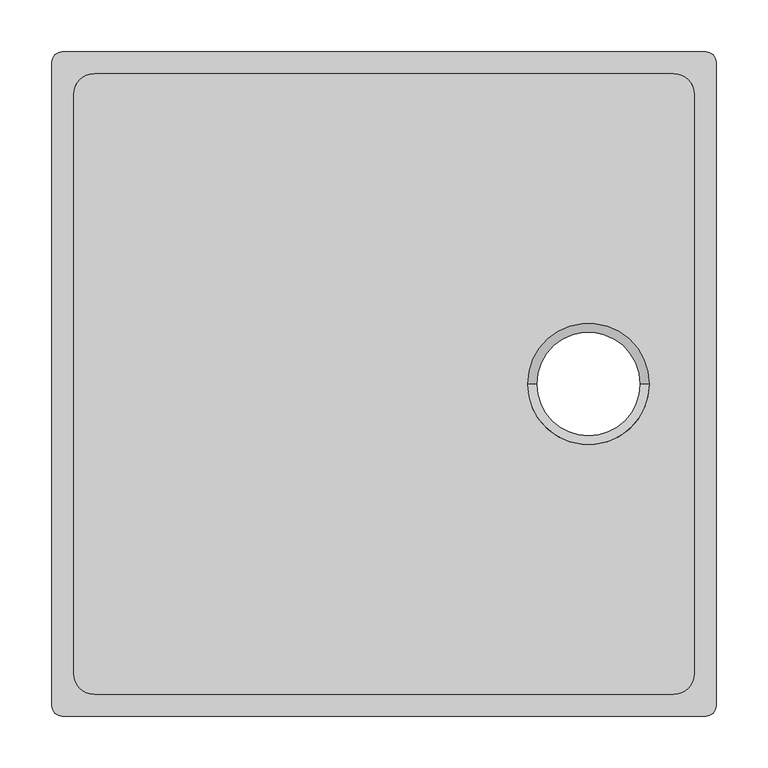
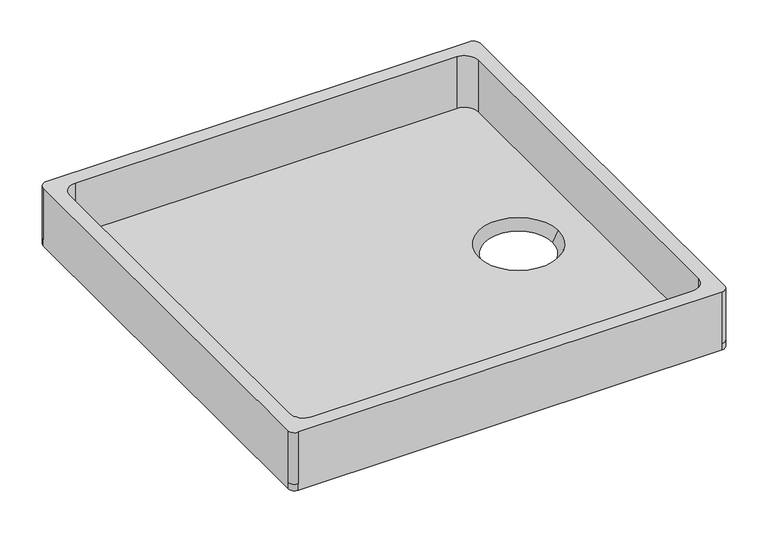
"""IFC4 building model written with IfcOpenShell, lengths in millimetres: flow terminal geometry, 洗濯機パン : 洗濯機パン."""

from ifc_helpers import new_model, si_unit, frame, origin, place, context, project, spatial, polyline, circle_curve, source, transform, mapped, element, save
from ifc_brep_helpers import plane_surface, cylinder_surface, revolved_surface, advanced_brep


def flow_terminal_9508bbe0(model_context):
    return source(origin(), model_context, "Body", "AdvancedBrep", [
        advanced_brep(
        [(-310.0, 320.0, 90.0), (-320.0, 310.0, 90.0), (-320.0, -310.0, 90.0), (-310.0, -320.0, 90.0), (310.0, -320.0, 90.0), (320.0, -310.0, 90.0), (320.0, 310.0, 90.0), (310.0, 320.0, 90.0), (-279.0, 299.0, 90.0), (279.0, 299.0, 90.0), (299.0, 279.0, 90.0), (299.0, -279.0, 90.0), (279.0, -299.0, 90.0), (-279.0, -299.0, 90.0), (-299.0, -279.0, 90.0), (-299.0, 279.0, 90.0), (-310.0, 320.0, 10.0), (-320.0, 310.0, 10.0), (-320.0, 310.0, 0.0), (-320.0, -310.0, 0.0), (-320.0, -310.0, 10.0), (-310.0, -320.0, 10.0), (-310.0, -320.0, 0.0), (310.0, -320.0, 0.0), (310.0, -320.0, 10.0), (320.0, -310.0, 10.0), (320.0, -310.0, 0.0), (320.0, 310.0, 0.0), (320.0, 310.0, 10.0), (310.0, 320.0, 10.0), (310.0, 320.0, 0.0), (-310.0, 320.0, 0.0), (-279.0, 299.0, 10.0), (279.0, 299.0, 10.0), (299.0, 279.0, 10.0), (299.0, -279.0, 10.0), (279.0, -299.0, 10.0), (-279.0, -299.0, 10.0), (-299.0, -279.0, 10.0), (-299.0, 279.0, 10.0), (255.5, 0.0, 10.0), (138.5, 0.0, 10.0), (138.5, 0.0, 0.0), (255.5, 0.0, 0.0), (138.5, 0.0, -5.0), (255.5, 0.0, -5.0), (147.0, 0.0, -5.0), (247.0, 0.0, -5.0)],
        [
            (0, 1, circle_curve(frame((-310.0, 310.0, 90.0), z_axis=(0.0, 0.0, 1.0), x_axis=(1.0, 0.0, 0.0)), 10.0)),
            (1, 2),
            (2, 3, circle_curve(frame((-310.0, -310.0, 90.0), z_axis=(0.0, 0.0, 1.0), x_axis=(1.0, 0.0, 0.0)), 10.0)),
            (3, 4),
            (4, 5, circle_curve(frame((310.0, -310.0, 90.0), z_axis=(0.0, 0.0, 1.0), x_axis=(1.0, 0.0, 0.0)), 10.0)),
            (5, 6),
            (6, 7, circle_curve(frame((310.0, 310.0, 90.0), z_axis=(0.0, 0.0, 1.0), x_axis=(1.0, 0.0, 0.0)), 10.0)),
            (7, 0),
            (8, 9),
            (9, 10, circle_curve(frame((279.0, 279.0, 90.0), z_axis=(0.0, 0.0, -1.0), x_axis=(1.0, 0.0, 0.0)), 20.0)),
            (10, 11),
            (11, 12, circle_curve(frame((279.0, -279.0, 90.0), z_axis=(0.0, 0.0, -1.0), x_axis=(1.0, 0.0, 0.0)), 20.0)),
            (12, 13),
            (13, 14, circle_curve(frame((-279.0, -279.0, 90.0), z_axis=(0.0, 0.0, -1.0), x_axis=(1.0, 0.0, 0.0)), 20.0)),
            (14, 15),
            (15, 8, circle_curve(frame((-279.0, 279.0, 90.0), z_axis=(0.0, 0.0, -1.0), x_axis=(1.0, 0.0, 0.0)), 20.0)),
            (0, 16),
            (16, 17, circle_curve(frame((-310.0, 310.0, 10.0), z_axis=(0.0, 0.0, 1.0), x_axis=(1.0, 0.0, 0.0)), 10.0)),
            (17, 1),
            (17, 18),
            (18, 19),
            (19, 20),
            (20, 2),
            (20, 21, circle_curve(frame((-310.0, -310.0, 10.0), z_axis=(0.0, 0.0, 1.0), x_axis=(1.0, 0.0, 0.0)), 10.0)),
            (21, 3),
            (21, 22),
            (22, 23),
            (23, 24),
            (24, 4),
            (24, 25, circle_curve(frame((310.0, -310.0, 10.0), z_axis=(0.0, 0.0, 1.0), x_axis=(1.0, 0.0, 0.0)), 10.0)),
            (25, 5),
            (25, 26),
            (26, 27),
            (27, 28),
            (28, 6),
            (28, 29, circle_curve(frame((310.0, 310.0, 10.0), z_axis=(0.0, 0.0, 1.0), x_axis=(1.0, 0.0, 0.0)), 10.0)),
            (29, 7),
            (29, 30),
            (30, 31),
            (31, 16),
            (8, 32),
            (32, 33),
            (33, 9),
            (33, 34, circle_curve(frame((279.0, 279.0, 10.0), z_axis=(0.0, 0.0, -1.0), x_axis=(1.0, 0.0, 0.0)), 20.0)),
            (34, 10),
            (34, 35),
            (35, 11),
            (35, 36, circle_curve(frame((279.0, -279.0, 10.0), z_axis=(0.0, 0.0, -1.0), x_axis=(1.0, 0.0, 0.0)), 20.0)),
            (36, 12),
            (36, 37),
            (37, 13),
            (37, 38, circle_curve(frame((-279.0, -279.0, 10.0), z_axis=(0.0, 0.0, -1.0), x_axis=(1.0, 0.0, 0.0)), 20.0)),
            (38, 14),
            (38, 39),
            (39, 15),
            (39, 32, circle_curve(frame((-279.0, 279.0, 10.0), z_axis=(0.0, 0.0, -1.0), x_axis=(1.0, 0.0, 0.0)), 20.0)),
            (40, 41, circle_curve(frame((197.0, 0.0, 10.0), z_axis=(0.0, 0.0, -1.0), x_axis=(-1.0, 0.0, 0.0)), 58.5)),
            (41, 40, circle_curve(frame((197.0, 0.0, 10.0), z_axis=(0.0, 0.0, -1.0), x_axis=(1.0, 0.0, 0.0)), 58.5)),
            (30, 27, circle_curve(frame((310.0, 310.0, 0.0), z_axis=(0.0, 0.0, -1.0), x_axis=(1.0, 0.0, 0.0)), 10.0)),
            (26, 23, circle_curve(frame((310.0, -310.0, 0.0), z_axis=(0.0, 0.0, -1.0), x_axis=(1.0, 0.0, 0.0)), 10.0)),
            (22, 19, circle_curve(frame((-310.0, -310.0, 0.0), z_axis=(0.0, 0.0, -1.0), x_axis=(1.0, 0.0, 0.0)), 10.0)),
            (18, 31, circle_curve(frame((-310.0, 310.0, 0.0), z_axis=(0.0, 0.0, -1.0), x_axis=(1.0, 0.0, 0.0)), 10.0)),
            (42, 43, circle_curve(frame((197.0, 0.0, 0.0), z_axis=(0.0, 0.0, 1.0), x_axis=(1.0, 0.0, 0.0)), 58.5)),
            (43, 42, circle_curve(frame((197.0, 0.0, 0.0), z_axis=(0.0, 0.0, 1.0), x_axis=(1.0, 0.0, 0.0)), 58.5)),
            (44, 45, circle_curve(frame((197.0, 0.0, -5.0), z_axis=(0.0, 0.0, -1.0), x_axis=(1.0, 0.0, 0.0)), 58.5)),
            (45, 44, circle_curve(frame((197.0, 0.0, -5.0), z_axis=(0.0, 0.0, -1.0), x_axis=(1.0, 0.0, 0.0)), 58.5)),
            (46, 47, circle_curve(frame((197.0, 0.0, -5.0), z_axis=(0.0, 0.0, 1.0), x_axis=(-1.0, 0.0, 0.0)), 50.0)),
            (47, 46, circle_curve(frame((197.0, 0.0, -5.0), z_axis=(0.0, 0.0, 1.0), x_axis=(1.0, 0.0, 0.0)), 50.0)),
            (45, 43),
            (42, 44),
            (46, 41),
            (40, 47),
        ],
        [
            plane_surface(frame((-300.0, 310.0, 90.0), z_axis=(0.0, 0.0, 1.0), x_axis=(0.0, 1.0, 0.0))),
            cylinder_surface(frame((-310.0, 310.0, 10.0), z_axis=(0.0, 0.0, 1.0), x_axis=(1.0, 0.0, 0.0)), 10.0),
            plane_surface(frame((-320.0, 310.0, 90.0), z_axis=(-1.0, 0.0, 0.0), x_axis=(0.0, 0.0, -1.0))),
            cylinder_surface(frame((-310.0, -310.0, 10.0), z_axis=(0.0, 0.0, 1.0), x_axis=(1.0, 0.0, 0.0)), 10.0),
            plane_surface(frame((-310.0, -320.0, 90.0), z_axis=(0.0, -1.0, 0.0), x_axis=(0.0, 0.0, -1.0))),
            cylinder_surface(frame((310.0, -310.0, 10.0), z_axis=(0.0, 0.0, 1.0), x_axis=(1.0, 0.0, 0.0)), 10.0),
            plane_surface(frame((320.0, -310.0, 90.0), z_axis=(1.0, 0.0, 0.0), x_axis=(0.0, 0.0, -1.0))),
            cylinder_surface(frame((310.0, 310.0, 10.0), z_axis=(0.0, 0.0, 1.0), x_axis=(1.0, 0.0, 0.0)), 10.0),
            plane_surface(frame((310.0, 320.0, 90.0), z_axis=(0.0, 1.0, 0.0), x_axis=(0.0, 0.0, -1.0))),
            plane_surface(frame((-279.0, 299.0, 90.0), z_axis=(0.0, -1.0, 0.0), x_axis=(0.0, 0.0, -1.0))),
            revolved_surface(polyline([(299.0, 279.0, 10.0), (299.0, 279.0, 90.0)]), (279.0, 279.0, 0.0), (0.0, 0.0, -1.0)),
            plane_surface(frame((299.0, 279.0, 90.0), z_axis=(-1.0, 0.0, 0.0), x_axis=(0.0, 0.0, -1.0))),
            revolved_surface(polyline([(299.0, -279.0, 10.0), (299.0, -279.0, 90.0)]), (279.0, -279.0, 0.0), (0.0, 0.0, -1.0)),
            plane_surface(frame((279.0, -299.0, 90.0), z_axis=(0.0, 1.0, 0.0), x_axis=(0.0, 0.0, -1.0))),
            revolved_surface(polyline([(-259.0, -279.0, 10.0), (-259.0, -279.0, 90.0)]), (-279.0, -279.0, 0.0), (0.0, 0.0, -1.0)),
            plane_surface(frame((-299.0, -279.0, 90.0), z_axis=(1.0, 0.0, 0.0), x_axis=(0.0, 0.0, -1.0))),
            revolved_surface(polyline([(-259.0, 279.0, 10.0), (-259.0, 279.0, 90.0)]), (-279.0, 279.0, 0.0), (0.0, 0.0, -1.0)),
            plane_surface(frame((-310.0, 320.0, 10.0), z_axis=(0.0, 0.0, 1.0), x_axis=(-1.0, 0.0, 0.0))),
            plane_surface(frame((-310.0, 320.0, 0.0), z_axis=(0.0, 0.0, -1.0), x_axis=(1.0, 0.0, 0.0))),
            cylinder_surface(frame((-310.0, 310.0, 0.0), z_axis=(0.0, 0.0, 1.0), x_axis=(1.0, 0.0, 0.0)), 10.0),
            cylinder_surface(frame((-310.0, -310.0, 0.0), z_axis=(0.0, 0.0, 1.0), x_axis=(1.0, 0.0, 0.0)), 10.0),
            cylinder_surface(frame((310.0, -310.0, 0.0), z_axis=(0.0, 0.0, 1.0), x_axis=(1.0, 0.0, 0.0)), 10.0),
            cylinder_surface(frame((310.0, 310.0, 0.0), z_axis=(0.0, 0.0, 1.0), x_axis=(1.0, 0.0, 0.0)), 10.0),
            plane_surface(frame((255.5, 0.0, -5.0), z_axis=(0.0, 0.0, -1.0), x_axis=(0.0, -1.0, 0.0))),
            cylinder_surface(frame((197.0, 0.0, -5.0), z_axis=(0.0, 0.0, 1.0), x_axis=(1.0, 0.0, 0.0)), 58.5),
            revolved_surface(polyline([(138.5, 0.0, 10.0), (147.000000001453, 0.0, -5.0)]), (197.0, 0.0, -93.2352941), (0.0, 0.0, 1.0)),
        ],
        [
            (0, [[1, 2, 3, 4, 5, 6, 7, 8], [9, 10, 11, 12, 13, 14, 15, 16]]),
            (1, [[-1, 17, 18, 19]]),
            (2, [[-2, -19, 20, 21, 22, 23]]),
            (3, [[-3, -23, 24, 25]]),
            (4, [[-4, -25, 26, 27, 28, 29]]),
            (5, [[-5, -29, 30, 31]]),
            (6, [[-6, -31, 32, 33, 34, 35]]),
            (7, [[-7, -35, 36, 37]]),
            (8, [[-8, -37, 38, 39, 40, -17]]),
            (9, [[-9, 41, 42, 43]]),
            (10, [[-10, -43, 44, 45]]),
            (11, [[-11, -45, 46, 47]]),
            (12, [[-12, -47, 48, 49]]),
            (13, [[-13, -49, 50, 51]]),
            (14, [[-14, -51, 52, 53]]),
            (15, [[-15, -53, 54, 55]]),
            (16, [[-16, -55, 56, -41]]),
            (17, [[-42, -56, -54, -52, -50, -48, -46, -44], [57, 58]]),
            (18, [[59, -33, 60, -27, 61, -21, 62, -39], [63, 64]]),
            (19, [[-62, -20, -18, -40]]),
            (20, [[-61, -26, -24, -22]]),
            (21, [[-60, -32, -30, -28]]),
            (22, [[-59, -38, -36, -34]]),
            (23, [[65, 66], [67, 68]]),
            (24, [[-66, 69, -63, 70]]),
            (24, [[-65, -70, -64, -69]]),
            (25, [[71, -57, 72, -67]]),
            (25, [[-71, -68, -72, -58]]),
        ],
    ),
    ])


if __name__ == "__main__":
    model = new_model("IFC4")
    model_context = context("Model", 3, world=origin())
    ifc_project = project(units=[si_unit("LENGTHUNIT", "METRE", prefix="MILLI")], contexts=[model_context])
    site = spatial("IfcSite", under=ifc_project)
    building = spatial("IfcBuilding", under=site)
    placement = place(None, origin())
    flow_terminal_shape = flow_terminal_9508bbe0(model_context)
    element("IfcFlowTerminal", 1, ObjectType="洗濯機パン : 洗濯機パン", at=placement, inside=building, context=model_context, shape_type="MappedRepresentation", body=[
        mapped(flow_terminal_shape, transform((0.0, 0.0, 0.0), x_axis=(1.0, 0.0, 0.0), y_axis=(0.0, 1.0, 0.0), z_axis=(0.0, 0.0, 1.0))),
    ])
    save(model, "model.ifc")
